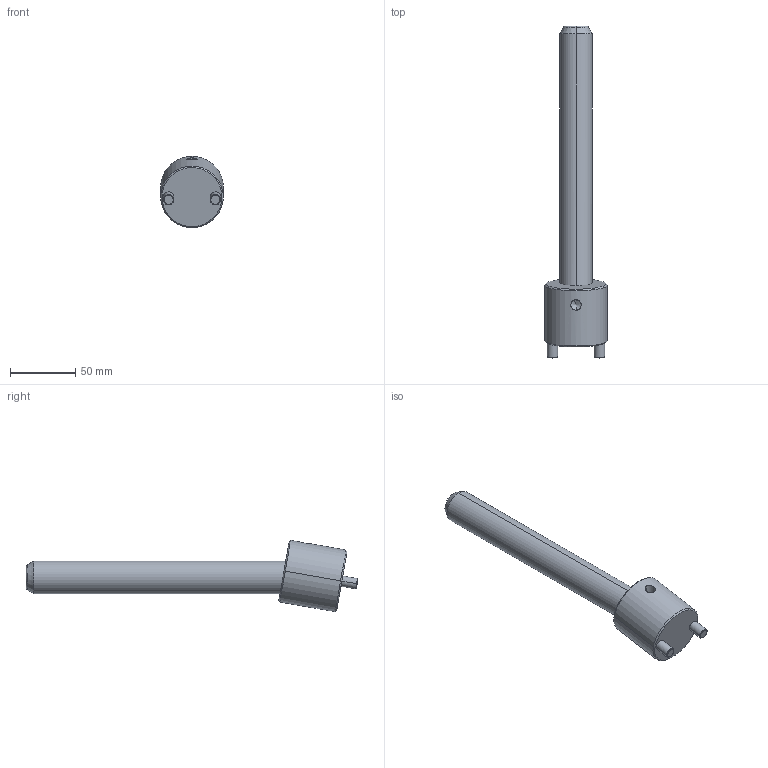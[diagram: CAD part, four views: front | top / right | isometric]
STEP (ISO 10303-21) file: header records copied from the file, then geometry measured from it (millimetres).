
FILE_DESCRIPTION(('CATIA V5 STEP Exchange'),'2;1');
FILE_NAME('C:\Users\Raffaele\Desktop\3D BOLEX\3D FILES CF BOLEX\19-INCLINED ASSEMBLY REF_CI\CI1025200.stp','2019-06-21T13:58:41+00:00',('none'),('none'),'CATIA Version 5 Release 20 GA (IN-10)','CATIA V5 STEP AP203','none');
FILE_SCHEMA(('CONFIG_CONTROL_DESIGN'));
Length unit declared in the file: millimetre
Products named in the file (1): CI1025200
Assembly tree (2 placements, depth 2):
  CI1025200
    #58
    #602
Bounding box: 48 x 254.61 x 54.74 mm (x, y, z)
Volume: 177245.6 mm3; surface area: 33310.7 mm2
Topology: 2 solids, 2 shells, 39 faces, 82 edges, 47 vertices
Faces by surface type: cone 14, cylinder 14, plane 7, torus 4
Entity records: 1530 total; most frequent: CARTESIAN_POINT 671, ORIENTED_EDGE 160, DIRECTION 145, EDGE_CURVE 80, AXIS2_PLACEMENT_3D 72, VERTEX_POINT 47, EDGE_LOOP 43, ADVANCED_FACE 39
